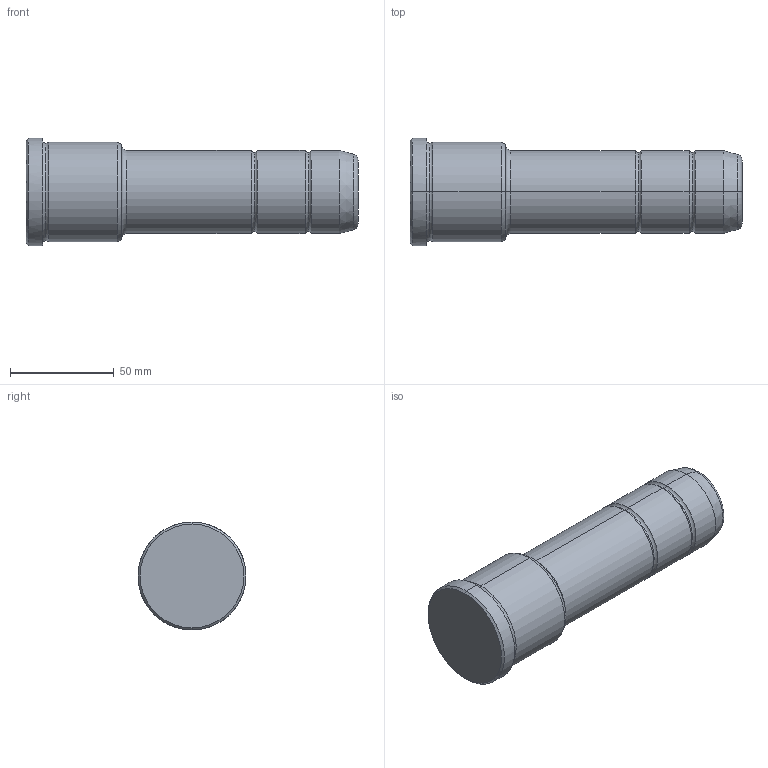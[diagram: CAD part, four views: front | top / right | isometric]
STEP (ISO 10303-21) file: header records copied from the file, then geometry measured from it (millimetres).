
FILE_DESCRIPTION(('CATIA V5 STEP Exchange'),'2;1');
FILE_NAME('C:\Users\Utente\Desktop\IO LAVORO\3D X SITO CF\X SITO\PLASTICA\351\351-40X46X160.stp','2021-10-28T18:36:25+00:00',('none'),('none'),'CATIA Version 5 Release 20 GA (IN-10)','CATIA V5 STEP AP203','none');
FILE_SCHEMA(('CONFIG_CONTROL_DESIGN'));
Length unit declared in the file: millimetre
Products named in the file (1): 351-40X46X160
Bounding box: 160 x 52 x 52 mm (x, y, z)
Volume: 226825.7 mm3; surface area: 25058.2 mm2
Topology: 1 solids, 1 shells, 36 faces, 102 edges, 70 vertices
Faces by surface type: torus 16, cylinder 10, cone 6, plane 4
Entity records: 1292 total; most frequent: CARTESIAN_POINT 321, ORIENTED_EDGE 204, DIRECTION 166, AXIS2_PLACEMENT_3D 115, EDGE_CURVE 102, CIRCLE 78, VERTEX_POINT 70, EDGE_LOOP 38
